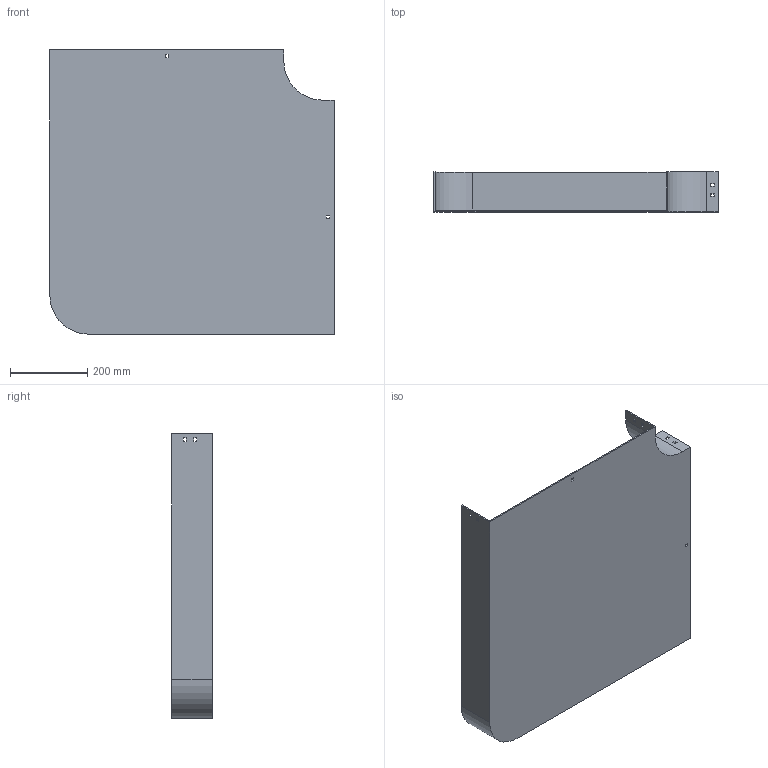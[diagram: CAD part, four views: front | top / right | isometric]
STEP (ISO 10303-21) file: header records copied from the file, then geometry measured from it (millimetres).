
FILE_DESCRIPTION (( 'STEP AP214' ), '1' );
FILE_NAME ('10F1D600.step', '2025-02-21T12:56:45', ( '' ), ( '' ), 'SwSTEP 2.0', 'SolidWorks 2023', '' );
FILE_SCHEMA (( 'AUTOMOTIVE_DESIGN' ));
Length unit declared in the file: millimetre
Products named in the file (1): 10F1D600
Bounding box: 734 x 104 x 734 mm (x, y, z)
Volume: 2401756 mm3; surface area: 1384983.6 mm2
Topology: 1 solids, 1 shells, 58 faces, 168 edges, 112 vertices
Faces by surface type: plane 54, cylinder 4
Entity records: 1943 total; most frequent: CARTESIAN_POINT 339, ORIENTED_EDGE 336, DIRECTION 294, EDGE_CURVE 168, VECTOR 160, LINE 160, VERTEX_POINT 112, EDGE_LOOP 78
